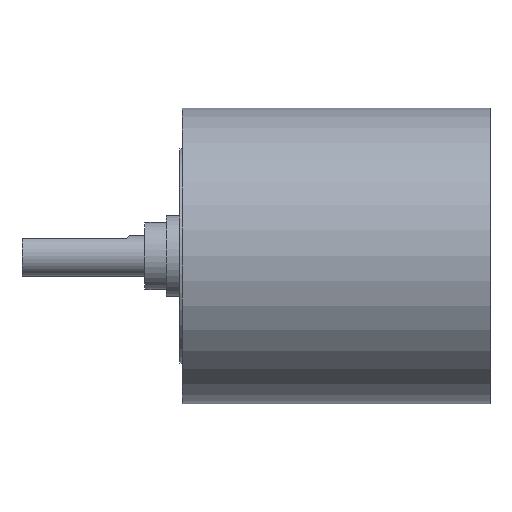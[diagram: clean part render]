
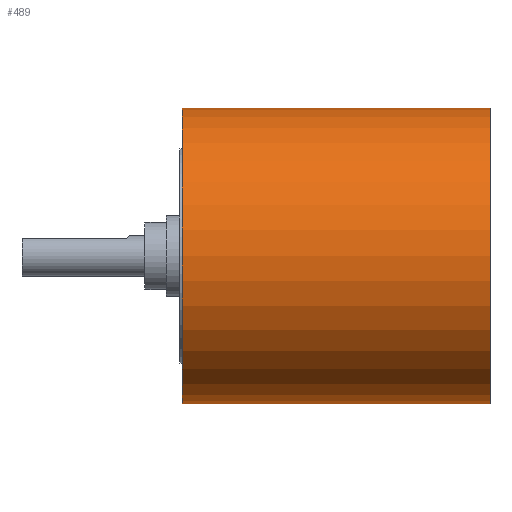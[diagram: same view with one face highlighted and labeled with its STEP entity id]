
A CAD part, top view. The second image highlights one B-rep face of the part: STEP entity #489.
In plain terms, the highlighted cylindrical face has radius 11 mm (diameter 22 mm), a partial arc.
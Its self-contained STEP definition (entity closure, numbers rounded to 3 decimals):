
#82=DIRECTION('',(-1.,0.,0.));
#83=VECTOR('',#82,22.9);
#84=CARTESIAN_POINT('',(-1.9,11.,0.));
#85=LINE('',#84,#83);
#86=CARTESIAN_POINT('',(-1.9,0.,0.));
#87=DIRECTION('',(1.,0.,0.));
#88=DIRECTION('',(0.,1.,0.));
#89=AXIS2_PLACEMENT_3D('',#86,#87,#88);
#91=DIRECTION('',(-1.,0.,0.));
#92=VECTOR('',#91,22.9);
#93=CARTESIAN_POINT('',(-1.9,-11.,0.));
#94=LINE('',#93,#92);
#95=CARTESIAN_POINT('',(-24.8,0.,0.));
#96=DIRECTION('',(1.,0.,0.));
#97=DIRECTION('',(0.,1.,0.));
#98=AXIS2_PLACEMENT_3D('',#95,#96,#97);
#420=CARTESIAN_POINT('',(-24.8,11.,0.));
#421=CARTESIAN_POINT('',(-24.8,-11.,0.));
#422=VERTEX_POINT('',#420);
#423=VERTEX_POINT('',#421);
#440=CARTESIAN_POINT('',(-1.9,11.,0.));
#441=CARTESIAN_POINT('',(-1.9,-11.,0.));
#442=VERTEX_POINT('',#440);
#443=VERTEX_POINT('',#441);
#477=CARTESIAN_POINT('',(1.838,0.,0.));
#478=DIRECTION('',(-1.,0.,0.));
#479=DIRECTION('',(0.,1.,0.));
#480=AXIS2_PLACEMENT_3D('',#477,#478,#479);
#481=CYLINDRICAL_SURFACE('',#480,11.);
#482=ORIENTED_EDGE('',*,*,#467,.F.);
#483=ORIENTED_EDGE('',*,*,#451,.T.);
#484=ORIENTED_EDGE('',*,*,#471,.T.);
#486=ORIENTED_EDGE('',*,*,#485,.F.);
#487=EDGE_LOOP('',(#482,#483,#484,#486));
#488=FACE_OUTER_BOUND('',#487,.F.);
#489=ADVANCED_FACE('',(#488),#481,.T.);
#90=CIRCLE('',#89,11.);
#99=CIRCLE('',#98,11.);
#451=EDGE_CURVE('',#442,#443,#90,.T.);
#467=EDGE_CURVE('',#442,#422,#85,.T.);
#471=EDGE_CURVE('',#443,#423,#94,.T.);
#485=EDGE_CURVE('',#422,#423,#99,.T.);
